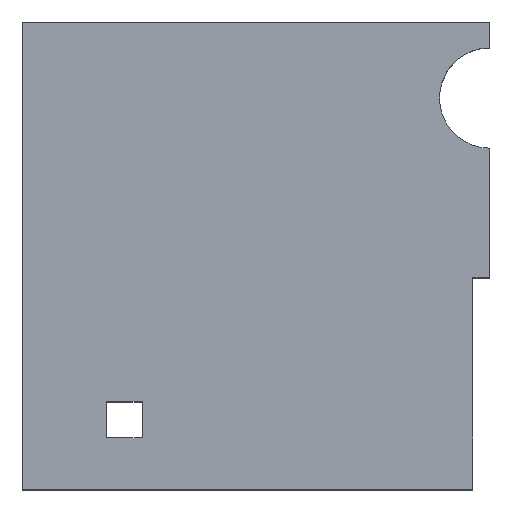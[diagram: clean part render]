
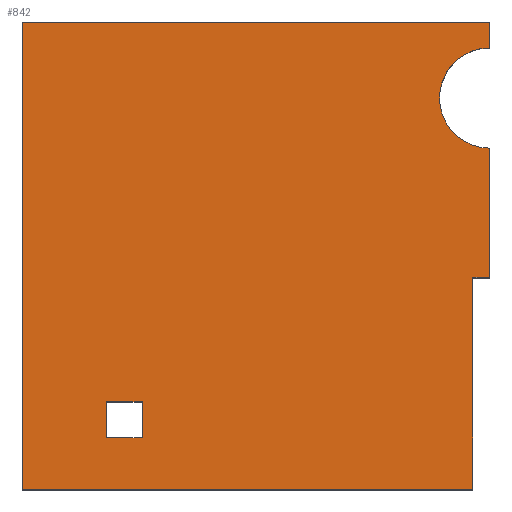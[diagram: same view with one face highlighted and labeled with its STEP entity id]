
A CAD part, top view. The second image highlights one B-rep face of the part: STEP entity #842.
In plain terms, the highlighted planar face has unit normal (0, 0, 1).
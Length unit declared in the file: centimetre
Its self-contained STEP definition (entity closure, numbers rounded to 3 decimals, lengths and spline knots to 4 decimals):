
#3 = VECTOR ( 'NONE', #1189, 100. ) ;
#39 = LINE ( 'NONE', #794, #780 ) ;
#50 = EDGE_CURVE ( 'NONE', #1342, #904, #253, .T. ) ;
#53 = CARTESIAN_POINT ( 'NONE',  ( 180.0976, 110.414, 1000. ) ) ;
#55 = ORIENTED_EDGE ( 'NONE', *, *, #426, .T. ) ;
#117 = EDGE_CURVE ( 'NONE', #164, #240, #777, .T. ) ;
#121 = DIRECTION ( 'NONE',  ( 1., 0., 0. ) ) ;
#161 = ORIENTED_EDGE ( 'NONE', *, *, #50, .F. ) ;
#164 = VERTEX_POINT ( 'NONE', #1106 ) ;
#173 = ORIENTED_EDGE ( 'NONE', *, *, #515, .T. ) ;
#178 = ORIENTED_EDGE ( 'NONE', *, *, #1266, .T. ) ;
#223 = CARTESIAN_POINT ( 'NONE',  ( 0., 0., 1000. ) ) ;
#239 = EDGE_CURVE ( 'NONE', #559, #494, #390, .T. ) ;
#240 = VERTEX_POINT ( 'NONE', #1336 ) ;
#253 = LINE ( 'NONE', #656, #1320 ) ;
#284 = EDGE_CURVE ( 'NONE', #329, #1035, #1347, .T. ) ;
#296 = DIRECTION ( 'NONE',  ( 1., 0., 0. ) ) ;
#301 = CARTESIAN_POINT ( 'NONE',  ( 180.0976, 187.5186, 1000. ) ) ;
#310 = PLANE ( 'NONE',  #1181 ) ;
#314 = EDGE_CURVE ( 'NONE', #164, #701, #857, .T. ) ;
#329 = VERTEX_POINT ( 'NONE', #301 ) ;
#349 = CARTESIAN_POINT ( 'NONE',  ( 1000., 1000., 1000. ) ) ;
#353 = DIRECTION ( 'NONE',  ( 0., 1., 0. ) ) ;
#374 = CARTESIAN_POINT ( 'NONE',  ( 0., 0., 1000. ) ) ;
#381 = EDGE_CURVE ( 'NONE', #1091, #1342, #834, .T. ) ;
#382 = DIRECTION ( 'NONE',  ( 1., 0., 0. ) ) ;
#390 = LINE ( 'NONE', #1241, #1127 ) ;
#397 = ORIENTED_EDGE ( 'NONE', *, *, #465, .T. ) ;
#403 = CARTESIAN_POINT ( 'NONE',  ( 180.0976, 187.5186, 1000. ) ) ;
#420 = VECTOR ( 'NONE', #1206, 100. ) ;
#426 = EDGE_CURVE ( 'NONE', #494, #329, #855, .T. ) ;
#444 = CARTESIAN_POINT ( 'NONE',  ( 0., 1000., 1000. ) ) ;
#451 = ORIENTED_EDGE ( 'NONE', *, *, #1310, .T. ) ;
#459 = DIRECTION ( 'NONE',  ( 0., 1., 0. ) ) ;
#465 = EDGE_CURVE ( 'NONE', #1265, #904, #787, .T. ) ;
#469 = VECTOR ( 'NONE', #121, 100. ) ;
#471 = EDGE_LOOP ( 'NONE', ( #912, #876, #451, #173, #397, #161, #764, #178 ) ) ;
#475 = CARTESIAN_POINT ( 'NONE',  ( 964.0951, 453.2521, 1000. ) ) ;
#494 = VERTEX_POINT ( 'NONE', #53 ) ;
#512 = CARTESIAN_POINT ( 'NONE',  ( 1000., 453.2521, 1000. ) ) ;
#515 = EDGE_CURVE ( 'NONE', #805, #1265, #685, .T. ) ;
#559 = VERTEX_POINT ( 'NONE', #864 ) ;
#572 = DIRECTION ( 'NONE',  ( -1., 0., 0. ) ) ;
#598 = DIRECTION ( 'NONE',  ( 0., 0., 1. ) ) ;
#607 = EDGE_LOOP ( 'NONE', ( #55, #1033, #609, #1322 ) ) ;
#609 = ORIENTED_EDGE ( 'NONE', *, *, #671, .T. ) ;
#615 = CARTESIAN_POINT ( 'NONE',  ( 1000., 453.2521, 1000. ) ) ;
#619 = VECTOR ( 'NONE', #1118, 100. ) ;
#656 = CARTESIAN_POINT ( 'NONE',  ( 964.0951, 453.2521, 1000. ) ) ;
#658 = LINE ( 'NONE', #1089, #420 ) ;
#671 = EDGE_CURVE ( 'NONE', #1035, #559, #658, .T. ) ;
#680 = CARTESIAN_POINT ( 'NONE',  ( 964.0951, 0., 1000. ) ) ;
#685 = LINE ( 'NONE', #1190, #619 ) ;
#701 = VERTEX_POINT ( 'NONE', #785 ) ;
#764 = ORIENTED_EDGE ( 'NONE', *, *, #381, .F. ) ;
#777 = LINE ( 'NONE', #1098, #1362 ) ;
#780 = VECTOR ( 'NONE', #572, 100. ) ;
#782 = DIRECTION ( 'NONE',  ( 1., 0., 0. ) ) ;
#785 = CARTESIAN_POINT ( 'NONE',  ( 1000., 730.019, 1000. ) ) ;
#787 = LINE ( 'NONE', #374, #469 ) ;
#794 = CARTESIAN_POINT ( 'NONE',  ( 0., 1000., 1000. ) ) ;
#805 = VERTEX_POINT ( 'NONE', #444 ) ;
#830 = FACE_BOUND ( 'NONE', #607, .T. ) ;
#834 = LINE ( 'NONE', #512, #907 ) ;
#842 = ADVANCED_FACE ( 'NONE', ( #830, #1259 ), #310, .T. ) ;
#855 = LINE ( 'NONE', #875, #1368 ) ;
#857 = CIRCLE ( 'NONE', #1108, 107.2531 ) ;
#864 = CARTESIAN_POINT ( 'NONE',  ( 256.2862, 110.414, 1000. ) ) ;
#875 = CARTESIAN_POINT ( 'NONE',  ( 180.0976, 110.414, 1000. ) ) ;
#876 = ORIENTED_EDGE ( 'NONE', *, *, #117, .T. ) ;
#904 = VERTEX_POINT ( 'NONE', #680 ) ;
#907 = VECTOR ( 'NONE', #942, 100. ) ;
#912 = ORIENTED_EDGE ( 'NONE', *, *, #314, .F. ) ;
#942 = DIRECTION ( 'NONE',  ( -1., 0., 0. ) ) ;
#948 = CARTESIAN_POINT ( 'NONE',  ( 1000., 837.272, 1000. ) ) ;
#962 = LINE ( 'NONE', #349, #3 ) ;
#1033 = ORIENTED_EDGE ( 'NONE', *, *, #284, .T. ) ;
#1035 = VERTEX_POINT ( 'NONE', #1139 ) ;
#1089 = CARTESIAN_POINT ( 'NONE',  ( 256.2862, 110.414, 1000. ) ) ;
#1091 = VERTEX_POINT ( 'NONE', #615 ) ;
#1098 = CARTESIAN_POINT ( 'NONE',  ( 1000., 1000., 1000. ) ) ;
#1106 = CARTESIAN_POINT ( 'NONE',  ( 1000., 944.5251, 1000. ) ) ;
#1108 = AXIS2_PLACEMENT_3D ( 'NONE', #948, #1251, #296 ) ;
#1114 = DIRECTION ( 'NONE',  ( -1., 0., 0. ) ) ;
#1118 = DIRECTION ( 'NONE',  ( 0., -1., 0. ) ) ;
#1127 = VECTOR ( 'NONE', #1114, 100. ) ;
#1139 = CARTESIAN_POINT ( 'NONE',  ( 256.2862, 187.5186, 1000. ) ) ;
#1157 = CARTESIAN_POINT ( 'NONE',  ( 0., 0., 1000. ) ) ;
#1181 = AXIS2_PLACEMENT_3D ( 'NONE', #1157, #598, #782 ) ;
#1189 = DIRECTION ( 'NONE',  ( 0., 1., 0. ) ) ;
#1190 = CARTESIAN_POINT ( 'NONE',  ( 0., 1000., 1000. ) ) ;
#1206 = DIRECTION ( 'NONE',  ( 0., -1., 0. ) ) ;
#1241 = CARTESIAN_POINT ( 'NONE',  ( 180.0976, 110.414, 1000. ) ) ;
#1251 = DIRECTION ( 'NONE',  ( 0., 0., 1. ) ) ;
#1259 = FACE_OUTER_BOUND ( 'NONE', #471, .T. ) ;
#1265 = VERTEX_POINT ( 'NONE', #223 ) ;
#1266 = EDGE_CURVE ( 'NONE', #1091, #701, #962, .T. ) ;
#1304 = DIRECTION ( 'NONE',  ( 0., -1., 0. ) ) ;
#1310 = EDGE_CURVE ( 'NONE', #240, #805, #39, .T. ) ;
#1320 = VECTOR ( 'NONE', #1304, 100. ) ;
#1322 = ORIENTED_EDGE ( 'NONE', *, *, #239, .T. ) ;
#1336 = CARTESIAN_POINT ( 'NONE',  ( 1000., 1000., 1000. ) ) ;
#1342 = VERTEX_POINT ( 'NONE', #475 ) ;
#1347 = LINE ( 'NONE', #403, #1364 ) ;
#1362 = VECTOR ( 'NONE', #353, 100. ) ;
#1364 = VECTOR ( 'NONE', #382, 100. ) ;
#1368 = VECTOR ( 'NONE', #459, 100. ) ;
